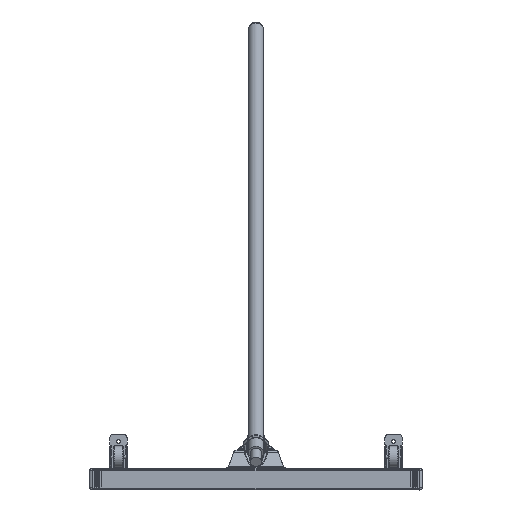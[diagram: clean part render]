
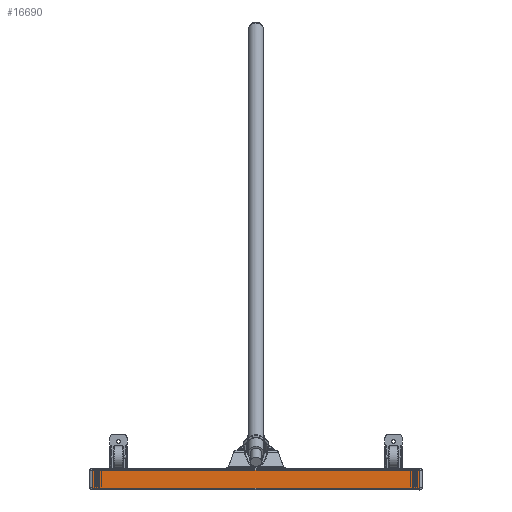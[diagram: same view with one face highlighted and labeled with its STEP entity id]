
A CAD part, front view. The second image highlights one B-rep face of the part: STEP entity #16690.
In plain terms, the highlighted planar face has unit normal (0, -1, 0).
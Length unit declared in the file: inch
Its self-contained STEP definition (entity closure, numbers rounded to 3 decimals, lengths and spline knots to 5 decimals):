
#516 = DIRECTION ( 'NONE',  ( 0., 0., 1. ) ) ;
#878 = CARTESIAN_POINT ( 'NONE',  ( 9.5, -0.628, 0.53125 ) ) ;
#1320 = LINE ( 'NONE', #10741, #20711 ) ;
#1974 = DIRECTION ( 'NONE',  ( 0., 0., 1. ) ) ;
#2169 = DIRECTION ( 'NONE',  ( 1., 0., 0. ) ) ;
#3538 = LINE ( 'NONE', #8117, #12516 ) ;
#3849 = LINE ( 'NONE', #17361, #4736 ) ;
#4736 = VECTOR ( 'NONE', #2169, 39.37008 ) ;
#4834 = CARTESIAN_POINT ( 'NONE',  ( -9.5, -0.628, 0.53125 ) ) ;
#5797 = CARTESIAN_POINT ( 'NONE',  ( -9.5, -0.628, -0.53125 ) ) ;
#8117 = CARTESIAN_POINT ( 'NONE',  ( 9.5, -0.628, -0.53125 ) ) ;
#8188 = EDGE_CURVE ( 'NONE', #22141, #19645, #3538, .T. ) ;
#8567 = VERTEX_POINT ( 'NONE', #13915 ) ;
#9549 = ORIENTED_EDGE ( 'NONE', *, *, #10616, .T. ) ;
#9835 = PLANE ( 'NONE',  #14795 ) ;
#10616 = EDGE_CURVE ( 'NONE', #8567, #22141, #3849, .T. ) ;
#10741 = CARTESIAN_POINT ( 'NONE',  ( -9.5, -0.628, 0.53125 ) ) ;
#10773 = CARTESIAN_POINT ( 'NONE',  ( 9.5, -0.628, -0.53125 ) ) ;
#10929 = VERTEX_POINT ( 'NONE', #4834 ) ;
#11910 = ORIENTED_EDGE ( 'NONE', *, *, #15933, .F. ) ;
#12438 = EDGE_LOOP ( 'NONE', ( #14108, #11910, #24293, #9549 ) ) ;
#12516 = VECTOR ( 'NONE', #516, 39.37008 ) ;
#13429 = CARTESIAN_POINT ( 'NONE',  ( -9.5, -0.628, -0.53125 ) ) ;
#13915 = CARTESIAN_POINT ( 'NONE',  ( -9.5, -0.628, -0.53125 ) ) ;
#14108 = ORIENTED_EDGE ( 'NONE', *, *, #8188, .T. ) ;
#14795 = AXIS2_PLACEMENT_3D ( 'NONE', #5797, #17390, #15554 ) ;
#15554 = DIRECTION ( 'NONE',  ( -1., 0., 0. ) ) ;
#15650 = EDGE_CURVE ( 'NONE', #8567, #10929, #16551, .T. ) ;
#15933 = EDGE_CURVE ( 'NONE', #10929, #19645, #1320, .T. ) ;
#16551 = LINE ( 'NONE', #13429, #23690 ) ;
#16690 = ADVANCED_FACE ( 'NONE', ( #22087 ), #9835, .F. ) ;
#17361 = CARTESIAN_POINT ( 'NONE',  ( -9.5, -0.628, -0.53125 ) ) ;
#17390 = DIRECTION ( 'NONE',  ( 0., 1., 0. ) ) ;
#18377 = DIRECTION ( 'NONE',  ( 1., 0., 0. ) ) ;
#19645 = VERTEX_POINT ( 'NONE', #878 ) ;
#20711 = VECTOR ( 'NONE', #18377, 39.37008 ) ;
#22087 = FACE_OUTER_BOUND ( 'NONE', #12438, .T. ) ;
#22141 = VERTEX_POINT ( 'NONE', #10773 ) ;
#23690 = VECTOR ( 'NONE', #1974, 39.37008 ) ;
#24293 = ORIENTED_EDGE ( 'NONE', *, *, #15650, .F. ) ;
